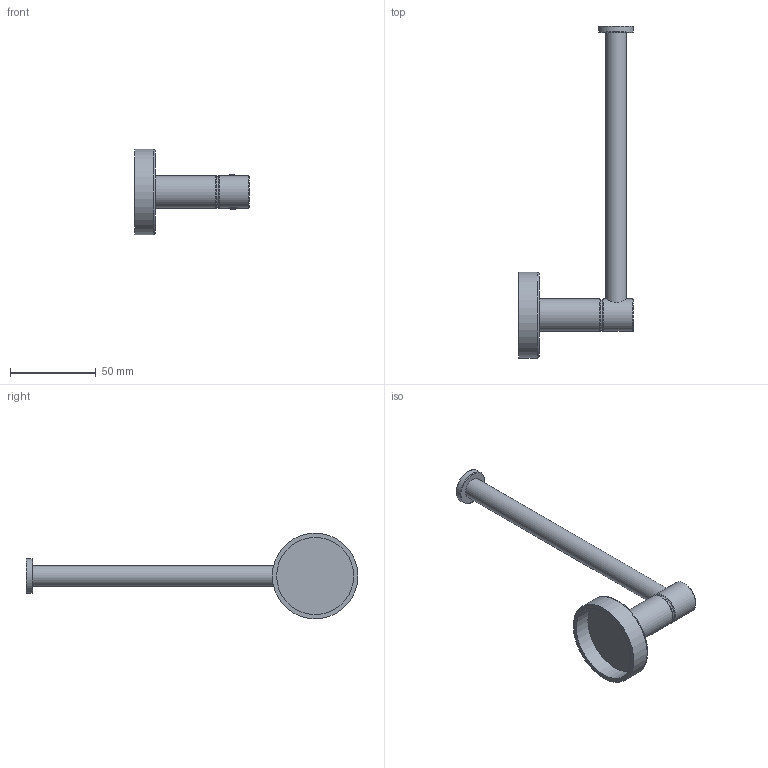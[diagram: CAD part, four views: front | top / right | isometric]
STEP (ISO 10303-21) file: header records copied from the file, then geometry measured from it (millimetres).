
FILE_DESCRIPTION(/* description */ (''),/* implementation_level */ '2;1');
FILE_NAME(/* name */ '11752.12.stp',/* time_stamp */ '2026-06-09T11:30:04+08:00',/* author */ (''),/* organization */ (''),/* preprocessor_version */ 'ST-DEVELOPER v16',/* originating_system */ 'SIEMENS PLM Software NX 10.0',/* authorisation */ '');
FILE_SCHEMA (('AUTOMOTIVE_DESIGN { 1 0 10303 214 3 1 1 1 }'));
Length unit declared in the file: millimetre
Products named in the file (5): 挂杆 - 圆; M5×0.8 L8紧定螺钉; 支架杆左; 墙盖; 11752.12
Assembly tree (4 placements, depth 2):
  11752.12
    墙盖
    支架杆左
    M5×0.8 L8紧定螺钉
    挂杆 - 圆
Bounding box: 67.13 x 193.8 x 50 mm (x, y, z)
Volume: 42764.8 mm3; surface area: 18396 mm2
Topology: 4 solids, 4 shells, 46 faces, 100 edges, 65 vertices
Faces by surface type: plane 19, cylinder 12, torus 7, bspline 6, cone 2
Full cylindrical faces by diameter (mm): 12 x2, 19 x2, 20.3 x1, 45 x1, 50 x1
Entity records: 12120 total; most frequent: CARTESIAN_POINT 11188, DIRECTION 157, ORIENTED_EDGE 144, EDGE_CURVE 72, AXIS2_PLACEMENT_3D 68, EDGE_LOOP 65, VERTEX_POINT 56, ADVANCED_FACE 45
